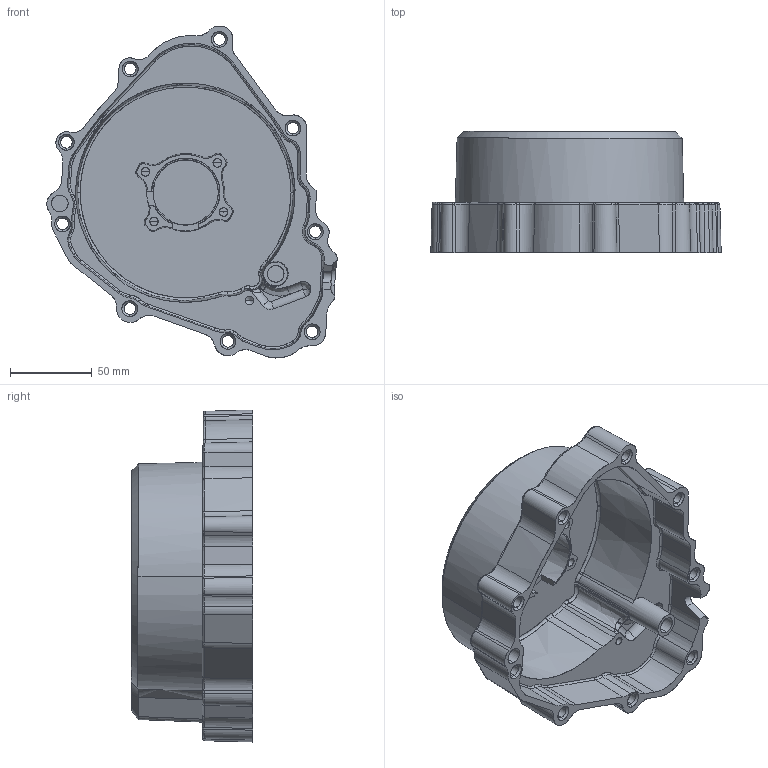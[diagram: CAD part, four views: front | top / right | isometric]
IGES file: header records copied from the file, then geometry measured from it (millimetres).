
Start section: SolidWorks IGES file using analytic representation for surfaces
Global section: file name: D:\Samples\Honda Cover\Exact Cover.IGS; native system: SolidWorks 2016; preprocessor: SolidWorks 2016; author: MatthewM; date: 180504.113403; units: millimetre
Bounding box: 177.48 x 74.35 x 202.93 mm (x, y, z)
Surface area: 133414.5 mm2 (no closed solid volume)
Topology: 0 solids, 0 shells, 712 faces, 7084 edges, 7076 vertices
Faces by surface type: bspline 444, revolution 268
